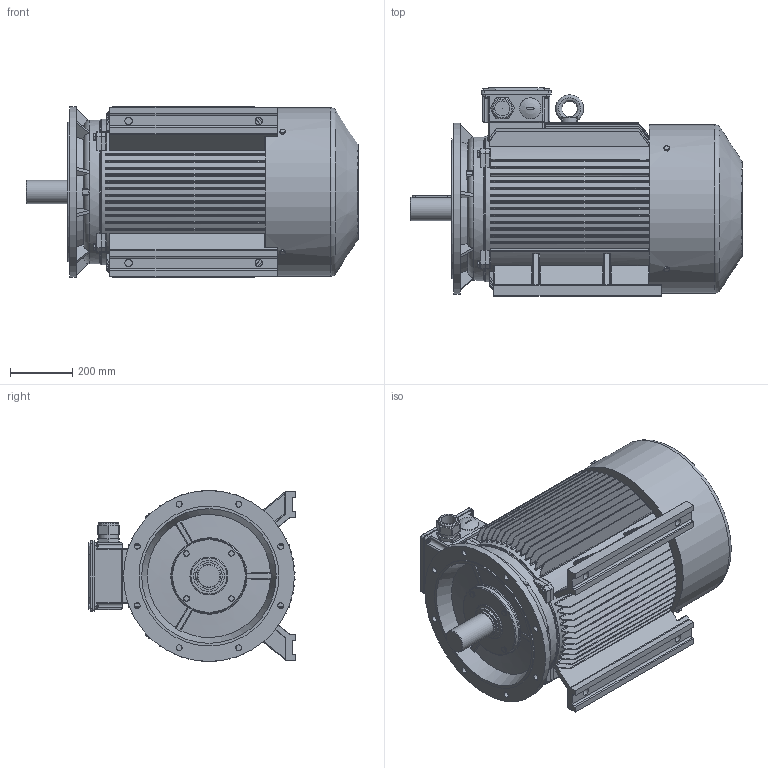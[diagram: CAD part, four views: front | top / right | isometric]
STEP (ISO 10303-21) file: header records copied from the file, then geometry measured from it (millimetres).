
FILE_DESCRIPTION((''),'2;1');
FILE_NAME('U:\Inventor 2012\121 - OMEC MOTORS\1408 - MOTOREN CAD BIBLIOTHEEK\1408 - Gereed\Step files\Step zonder Omec logo\280\OMT1-280M B35 - 4-6 Pole IE3.stp','2015-02-06T13:06:58',('Freek'),(''),'Autodesk Inventor 2012','Autodesk Inventor 2012','');
FILE_SCHEMA(('AUTOMOTIVE_DESIGN { 1 0 10303 214 1 1 1 1 }'));
Length unit declared in the file: millimetre
Products named in the file (1): 1408-197
Bounding box: 1068.1 x 669.1 x 552.15 mm (x, y, z)
Volume: 182014547.2 mm3; surface area: 5290164.8 mm2
Topology: 3 solids, 21 shells, 3573 faces, 8703 edges, 5665 vertices
Faces by surface type: plane 2827, cylinder 439, cone 243, bspline 27, torus 23, sphere 14
Full cylindrical faces by diameter (mm): 1 x2, 9.188 x8, 10 x24, 11.053 x4, 11.5 x1, 12 x8, 15.4 x12, 17.2 x4, 19 x8, 24 x4, 48 x1, 60 x1, 63 x1, 66 x1, 68 x1, 75 x1, 85 x1, 94.8 x1, 99.8 x1, 100 x1, 116 x1, 240 x2, 296 x1, 450 x1, 462 x1, 468 x2, 543 x1, 550 x1
Entity records: 111302 total; most frequent: CARTESIAN_POINT 25490, ORIENTED_EDGE 17084, DIRECTION 15821, EDGE_CURVE 8542, VECTOR 6707, LINE 6707, VERTEX_POINT 5626, AXIS2_PLACEMENT_3D 4557
